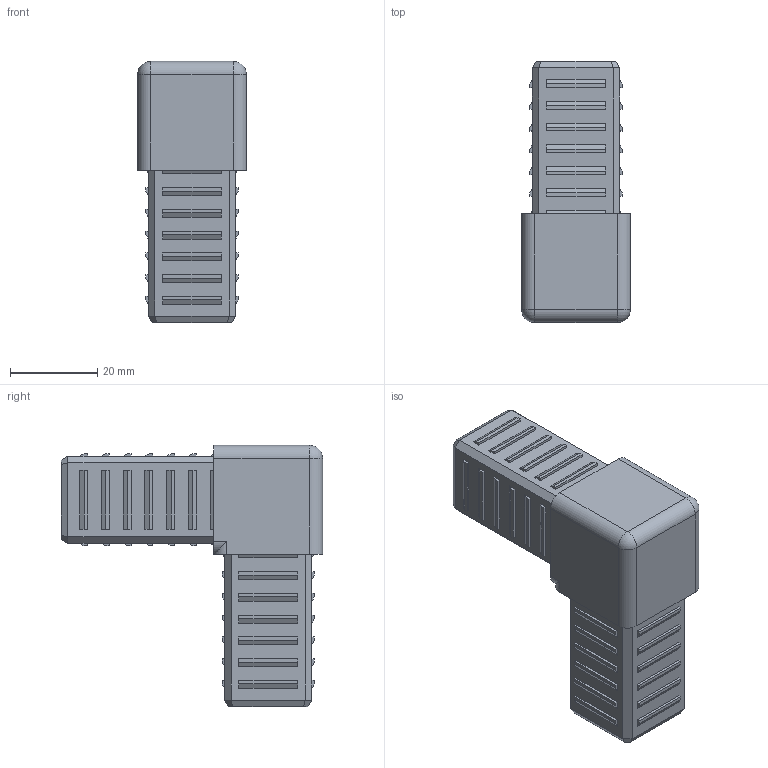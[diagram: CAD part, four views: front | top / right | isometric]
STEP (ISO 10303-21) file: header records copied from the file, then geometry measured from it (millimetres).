
FILE_DESCRIPTION (( 'STEP AP203' ), '1' );
FILE_NAME ('013.025.102.STEP', '2020-09-18T14:45:10', ( '' ), ( '' ), 'SwSTEP 2.0', 'SolidWorks 2018', '' );
FILE_SCHEMA (( 'CONFIG_CONTROL_DESIGN' ));
Length unit declared in the file: millimetre
Products named in the file (1): 013.025.102
Bounding box: 25 x 60 x 60 mm (x, y, z)
Volume: 23556 mm3; surface area: 17024.3 mm2
Topology: 1 solids, 1 shells, 353 faces, 881 edges, 576 vertices
Faces by surface type: plane 325, cylinder 24, sphere 2, bspline 2
Entity records: 10430 total; most frequent: CARTESIAN_POINT 1929, ORIENTED_EDGE 1754, DIRECTION 1611, EDGE_CURVE 877, LINE 823, VECTOR 823, VERTEX_POINT 576, EDGE_LOOP 405
